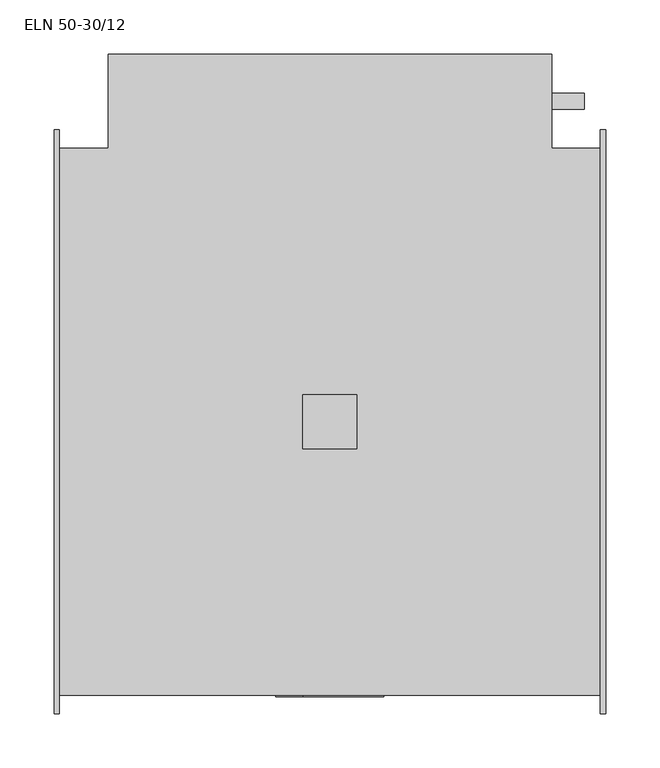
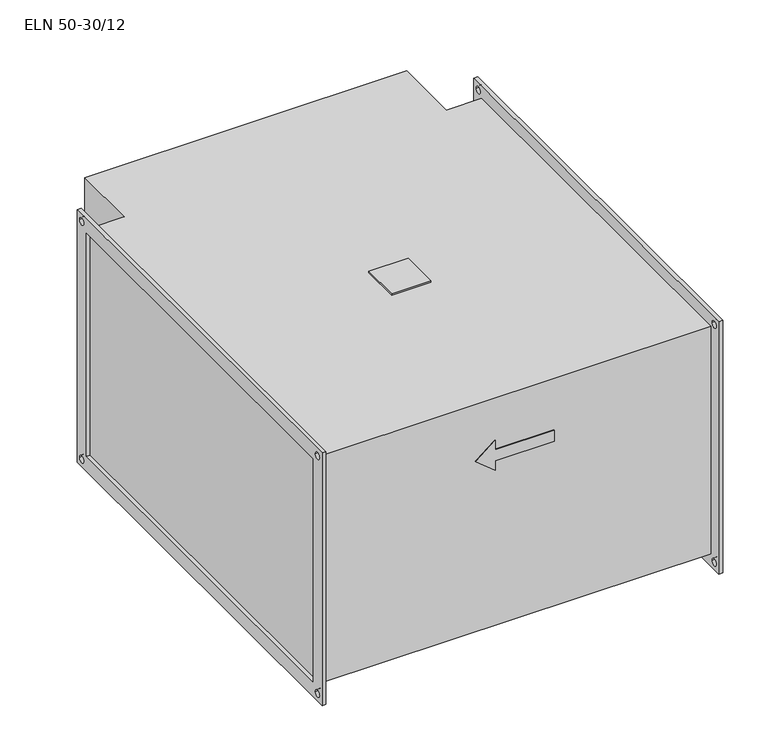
"""IFC4 building model written with IfcOpenShell, lengths in millimetres: proxy geometry, KORF_Нагреватель_Электрический_ELN : ELN 50-30/12."""

import ifcopenshell
import ifcopenshell.guid

model = None  # the IFC model being written
_history = None  # IfcOwnerHistory: only IFC2X3 demands one
_inside = {}  # id of a spatial element -> (the spatial element, [elements in it])
_under = {}  # id of a project, library or spatial element -> (it, [spatial elements below it])
_declared = {}  # id of a project -> (the project, [libraries it declares])
_typed = {}  # id of a type object -> (the type object, [elements of that type])
_made_of = {}  # id of a material, layer set ... -> (it, [elements and type objects made of it])


def new_model(schema):
    """Start an empty IFC model of exactly this schema.

    Asked for "IFC4X3", IfcOpenShell would pick the latest addendum, in which some entities
    have other attributes; the version numbers below select the first issue.
    IFC2X3 requires an IfcOwnerHistory on every rooted entity: one is made here for all.
    """
    global model, _history
    if schema == "IFC4X3":
        model = ifcopenshell.file(schema_version=(4, 3, 0, 0))
    else:
        model = ifcopenshell.file(schema=schema)
    _inside.clear()
    _under.clear()
    _declared.clear()
    _typed.clear()
    _made_of.clear()
    _history = None
    if model.schema == "IFC2X3":
        org = make("IfcOrganization", Name="unknown")
        user = make(
            "IfcPersonAndOrganization",
            ThePerson=make("IfcPerson", FamilyName="unknown"),
            TheOrganization=org,
        )
        app = make(
            "IfcApplication",
            ApplicationDeveloper=org,
            Version="unknown",
            ApplicationFullName="unknown",
            ApplicationIdentifier="unknown",
        )
        _history = make(
            "IfcOwnerHistory",
            OwningUser=user,
            OwningApplication=app,
            ChangeAction="ADDED",
            CreationDate=0,
        )
    return model


def make(cls, **values):
    """One entity of the class cls with the attributes given. An attribute that is None is left unset."""
    return model.create_entity(
        cls, **{name: value for name, value in values.items() if value is not None}
    )


def rooted(cls, **values):
    """An entity with a GlobalId (a new one), such as an element, a storey or a relation."""
    return make(cls, GlobalId=ifcopenshell.guid.new(), OwnerHistory=_history, **values)


def si_unit(unit_type, name, prefix=None):
    """IfcSIUnit, for example si_unit("LENGTHUNIT", "METRE", prefix="MILLI")."""
    return make("IfcSIUnit", UnitType=unit_type, Prefix=prefix, Name=name)


def assignment(units):
    """IfcUnitAssignment: the units of a project."""
    return None if units is None else make("IfcUnitAssignment", Units=units)


def point(xyz):
    """IfcCartesianPoint."""
    return None if xyz is None else make("IfcCartesianPoint", Coordinates=xyz)


def direction(xyz):
    """IfcDirection."""
    return None if xyz is None else make("IfcDirection", DirectionRatios=xyz)


def frame(location, z_axis=None, x_axis=None):
    """IfcAxis2Placement3D, a coordinate frame: its origin and axes. An axis left out is left unset."""
    return make(
        "IfcAxis2Placement3D",
        Location=point(location),
        Axis=direction(z_axis),
        RefDirection=direction(x_axis),
    )


def frame_2d(location, x_axis=None):
    """IfcAxis2Placement2D, a coordinate frame in the plane: its origin and x axis."""
    return make(
        "IfcAxis2Placement2D", Location=point(location), RefDirection=direction(x_axis)
    )


def origin():
    """The frame at (0, 0, 0) with its axes left unset."""
    return frame((0.0, 0.0, 0.0))


def place(relative_to, where):
    """IfcLocalPlacement: puts the frame where relative to a parent placement (None: the world)."""
    return make(
        "IfcLocalPlacement", PlacementRelTo=relative_to, RelativePlacement=where
    )


def context(
    kind, dimensions, precision=None, world=None, true_north=None, identifier=None
):
    """IfcGeometricRepresentationContext, for example the 3D "Model" context."""
    return make(
        "IfcGeometricRepresentationContext",
        ContextIdentifier=identifier,
        ContextType=kind,
        CoordinateSpaceDimension=dimensions,
        Precision=precision,
        WorldCoordinateSystem=world,
        TrueNorth=true_north,
    )


def project(units=None, contexts=None):
    """IfcProject with its units and contexts."""
    return rooted(
        "IfcProject",
        Name="project",
        RepresentationContexts=contexts,
        UnitsInContext=assignment(units),
    )


def spatial(cls, under=None, at=None, **own):
    """A site, building, storey or space (cls), placed at a placement, below another one or the project."""
    s = rooted(cls, ObjectPlacement=at, **own)
    if under is not None:
        _under.setdefault(under.id(), (under, []))[1].append(s)
    return s


def polyline(points):
    """IfcPolyline through the points."""
    return make("IfcPolyline", Points=[point(p) for p in points])


def circle_curve(where, radius):
    """IfcCircle in the frame where."""
    return make("IfcCircle", Position=where, Radius=radius)


def trimmed(basis, trim1, trim2, sense, master):
    """IfcTrimmedCurve: the piece of a basis curve between two trims."""
    return make(
        "IfcTrimmedCurve",
        BasisCurve=basis,
        Trim1=trim1,
        Trim2=trim2,
        SenseAgreement=sense,
        MasterRepresentation=master,
    )


def segment(curve, same_sense, transition):
    """IfcCompositeCurveSegment."""
    return make(
        "IfcCompositeCurveSegment",
        Transition=transition,
        SameSense=same_sense,
        ParentCurve=curve,
    )


def composite_curve(segments, self_intersect=None):
    """IfcCompositeCurve: segments joined end to end."""
    return make("IfcCompositeCurve", Segments=segments, SelfIntersect=self_intersect)


def outline(outer, holes=None, kind="AREA"):
    """IfcArbitraryClosedProfileDef: a profile drawn as a closed curve; with holes, ...WithVoids."""
    if holes is None:
        return make("IfcArbitraryClosedProfileDef", ProfileType=kind, OuterCurve=outer)
    return make(
        "IfcArbitraryProfileDefWithVoids",
        ProfileType=kind,
        OuterCurve=outer,
        InnerCurves=holes,
    )


def extrude(swept, where, along, depth):
    """IfcExtrudedAreaSolid: the profile swept, set in the frame where, extruded along a direction by depth."""
    return make(
        "IfcExtrudedAreaSolid",
        SweptArea=swept,
        Position=where,
        ExtrudedDirection=direction(along),
        Depth=depth,
    )


def shape(context_of_items, identifier, shape_type, items):
    """IfcShapeRepresentation: the items that make up one representation, for example the "Body"."""
    return make(
        "IfcShapeRepresentation",
        ContextOfItems=context_of_items,
        RepresentationIdentifier=identifier,
        RepresentationType=shape_type,
        Items=items,
    )


def source(mapping_origin, context_of_items, identifier, shape_type, items):
    """IfcRepresentationMap: a shape defined once, which mapped items show again and again."""
    return make(
        "IfcRepresentationMap",
        MappingOrigin=mapping_origin,
        MappedRepresentation=shape(context_of_items, identifier, shape_type, items),
    )


def transform(
    local_origin,
    x_axis=None,
    y_axis=None,
    z_axis=None,
    scale=None,
    scale2=None,
    scale3=None,
    uniform=True,
):
    """IfcCartesianTransformationOperator3D, or its non-uniform kind. x_axis, y_axis, z_axis: its Axis1, 2, 3."""
    if uniform:
        return make(
            "IfcCartesianTransformationOperator3D",
            Axis1=direction(x_axis),
            Axis2=direction(y_axis),
            LocalOrigin=point(local_origin),
            Scale=scale,
            Axis3=direction(z_axis),
        )
    return make(
        "IfcCartesianTransformationOperator3DnonUniform",
        Axis1=direction(x_axis),
        Axis2=direction(y_axis),
        LocalOrigin=point(local_origin),
        Scale=scale,
        Axis3=direction(z_axis),
        Scale2=scale2,
        Scale3=scale3,
    )


def mapped(mapping_source, mapping_target):
    """IfcMappedItem: shows the shape of a source again, moved by a transform."""
    return make(
        "IfcMappedItem", MappingSource=mapping_source, MappingTarget=mapping_target
    )


def made_of(thing, what):
    """Note that an element or type object is made of a material, layer set ...; save() writes the relation."""
    if what is not None:
        _made_of.setdefault(what.id(), (what, []))[1].append(thing)
    return thing


def element(
    cls,
    number,
    at=None,
    inside=None,
    cuts=None,
    type_object=None,
    material=None,
    context=None,
    identifier="Body",
    shape_type=None,
    held_by="IfcProductDefinitionShape",
    body=None,
    shapes=None,
    **own,
):
    """One element of the class cls, such as IfcWall. Its Tag is "e" and its number.

    at: its placement. inside: the storey or other place that contains it. cuts: it is an
    opening in that element (IfcRelVoidsElement). A single representation is given by context,
    identifier, shape_type and body (its items); several are given by shapes. held_by: the class
    of the entity that holds the representations. save() writes the other relations.
    """
    e = rooted(cls, Tag="e%d" % number, ObjectPlacement=at, **own)
    if body is not None:
        shapes = [shape(context, identifier, shape_type, body)]
    if shapes is not None:
        e.Representation = make(held_by, Representations=shapes)
    if inside is not None:
        _inside.setdefault(inside.id(), (inside, []))[1].append(e)
    if cuts is not None:
        rooted(
            "IfcRelVoidsElement", RelatingBuildingElement=cuts, RelatedOpeningElement=e
        )
    if type_object is not None:
        _typed.setdefault(type_object.id(), (type_object, []))[1].append(e)
    return made_of(e, material)


def aggregate(whole, parts):
    """IfcRelAggregates: a whole, such as a stair, and the parts it consists of."""
    return rooted("IfcRelAggregates", RelatingObject=whole, RelatedObjects=parts)


def save(model, path):
    """Write the relations noted so far, then the file.

    IfcRelAggregates (storeys below a building ...), IfcRelContainedInSpatialStructure (elements
    in a storey), IfcRelDefinesByType, IfcRelAssociatesMaterial and IfcRelDeclares: one each for
    every whole, place, type object, material and project.
    """
    for whole, parts in _under.values():
        aggregate(whole, parts)
    for where, things in _inside.values():
        rooted(
            "IfcRelContainedInSpatialStructure",
            RelatedElements=things,
            RelatingStructure=where,
        )
    for kind, things in _typed.values():
        rooted("IfcRelDefinesByType", RelatedObjects=things, RelatingType=kind)
    for what, things in _made_of.values():
        rooted("IfcRelAssociatesMaterial", RelatedObjects=things, RelatingMaterial=what)
    for by, libraries in _declared.values():
        rooted("IfcRelDeclares", RelatingContext=by, RelatedDefinitions=libraries)
    model.write(path)


def eln_50_30_12_ada01c48(model_context):
    return source(origin(), model_context, "Body", "SweptSolid", [
        extrude(outline(polyline([(230.0, -25.0), (230.0, 25.0), (280.0, 25.0), (280.0, -25.0), (230.0, -25.0)])), frame((0.0, 0.0, 153.0), z_axis=(0.0, 0.0, 1.0), x_axis=(1.0, 0.0, 0.0)), (0.0, 0.0, 1.0), 2.0),
        extrude(outline(composite_curve([segment(trimmed(circle_curve(frame_2d((296.5, -76.5)), 7.5), [point((289.0, -76.5))], [point((304.0, -76.5))], False, "CARTESIAN"), True, "CONTINUOUS"), segment(trimmed(circle_curve(frame_2d((296.5, -76.5)), 7.5), [point((304.0, -76.5))], [point((289.0, -76.5))], False, "CARTESIAN"), True, "CONTINUOUS")], self_intersect=False)), frame((460.0, 0.0, 0.0), z_axis=(1.0, 0.0, 0.0), x_axis=(0.0, 1.0, 0.0)), (0.0, 0.0, 1.0), 30.0),
        extrude(outline(composite_curve([segment(trimmed(circle_curve(frame_2d((296.5, -56.5)), 7.5), [point((289.0, -56.5))], [point((304.0, -56.5))], False, "CARTESIAN"), True, "CONTINUOUS"), segment(trimmed(circle_curve(frame_2d((296.5, -56.5)), 7.5), [point((304.0, -56.5))], [point((289.0, -56.5))], False, "CARTESIAN"), True, "CONTINUOUS")], self_intersect=False)), frame((460.0, 0.0, 0.0), z_axis=(1.0, 0.0, 0.0), x_axis=(0.0, 1.0, 0.0)), (0.0, 0.0, 1.0), 30.0),
        extrude(outline(composite_curve([segment(trimmed(circle_curve(frame_2d((296.5, -96.5)), 7.5), [point((289.0, -96.5))], [point((304.0, -96.5))], False, "CARTESIAN"), True, "CONTINUOUS"), segment(trimmed(circle_curve(frame_2d((296.5, -96.5)), 7.5), [point((304.0, -96.5))], [point((289.0, -96.5))], False, "CARTESIAN"), True, "CONTINUOUS")], self_intersect=False)), frame((460.0, 0.0, 0.0), z_axis=(1.0, 0.0, 0.0), x_axis=(0.0, 1.0, 0.0)), (0.0, 0.0, 1.0), 30.0),
        extrude(outline(polyline([(96.5, 230.0), (76.5, 205.0), (56.5, 230.0), (69.0, 230.0), (69.0, 305.0), (84.0, 305.0), (84.0, 230.0), (96.5, 230.0)])), frame((0.0, -254.0, 0.0), z_axis=(0.0, 1.0, 0.0), x_axis=(0.0, 0.0, 1.0)), (0.0, 0.0, 1.0), 1.0),
        extrude(outline(polyline([(505.0, 253.0), (505.0, -253.0), (5.0, -253.0), (5.0, 253.0), (50.0, 253.0), (50.0, 340.0), (460.0, 340.0), (460.0, 253.0), (505.0, 253.0)])), frame((0.0, 0.0, -153.0), z_axis=(0.0, 0.0, 1.0), x_axis=(1.0, 0.0, 0.0)), (0.0, 0.0, 1.0), 306.0),
        extrude(outline(polyline([(-270.0, 170.0), (270.0, 170.0), (270.0, -170.0), (-270.0, -170.0), (-270.0, 170.0)]), holes=[polyline([(-250.0, 150.0), (-250.0, -150.0), (250.0, -150.0), (250.0, 150.0), (-250.0, 150.0)]), composite_curve([segment(trimmed(circle_curve(frame_2d((260.0, 160.0)), 4.5), [point((255.5, 160.0))], [point((264.5, 160.0))], True, "CARTESIAN"), True, "CONTINUOUS"), segment(trimmed(circle_curve(frame_2d((260.0, 160.0)), 4.5), [point((264.5, 160.0))], [point((255.5, 160.0))], True, "CARTESIAN"), True, "CONTINUOUS")], self_intersect=False), composite_curve([segment(trimmed(circle_curve(frame_2d((-260.0, 160.0)), 4.5), [point((-264.5, 160.0))], [point((-255.5, 160.0))], True, "CARTESIAN"), True, "CONTINUOUS"), segment(trimmed(circle_curve(frame_2d((-260.0, 160.0)), 4.5), [point((-255.5, 160.0))], [point((-264.5, 160.0))], True, "CARTESIAN"), True, "CONTINUOUS")], self_intersect=False), composite_curve([segment(trimmed(circle_curve(frame_2d((-260.0, -160.0)), 4.5), [point((-264.5, -160.0))], [point((-255.5, -160.0))], True, "CARTESIAN"), True, "CONTINUOUS"), segment(trimmed(circle_curve(frame_2d((-260.0, -160.0)), 4.5), [point((-255.5, -160.0))], [point((-264.5, -160.0))], True, "CARTESIAN"), True, "CONTINUOUS")], self_intersect=False), composite_curve([segment(trimmed(circle_curve(frame_2d((260.0, -160.0)), 4.5), [point((255.5, -160.0))], [point((264.5, -160.0))], True, "CARTESIAN"), True, "CONTINUOUS"), segment(trimmed(circle_curve(frame_2d((260.0, -160.0)), 4.5), [point((264.5, -160.0))], [point((255.5, -160.0))], True, "CARTESIAN"), True, "CONTINUOUS")], self_intersect=False)]), frame((505.0, 0.0, 0.0), z_axis=(1.0, 0.0, 0.0), x_axis=(0.0, 1.0, 0.0)), (0.0, 0.0, 1.0), 5.0),
        extrude(outline(polyline([(-270.0, 170.0), (270.0, 170.0), (270.0, -170.0), (-270.0, -170.0), (-270.0, 170.0)]), holes=[polyline([(-250.0, 150.0), (-250.0, -150.0), (250.0, -150.0), (250.0, 150.0), (-250.0, 150.0)]), composite_curve([segment(trimmed(circle_curve(frame_2d((260.0, 160.0)), 4.5), [point((255.5, 160.0))], [point((264.5, 160.0))], True, "CARTESIAN"), True, "CONTINUOUS"), segment(trimmed(circle_curve(frame_2d((260.0, 160.0)), 4.5), [point((264.5, 160.0))], [point((255.5, 160.0))], True, "CARTESIAN"), True, "CONTINUOUS")], self_intersect=False), composite_curve([segment(trimmed(circle_curve(frame_2d((-260.0, 160.0)), 4.5), [point((-264.5, 160.0))], [point((-255.5, 160.0))], True, "CARTESIAN"), True, "CONTINUOUS"), segment(trimmed(circle_curve(frame_2d((-260.0, 160.0)), 4.5), [point((-255.5, 160.0))], [point((-264.5, 160.0))], True, "CARTESIAN"), True, "CONTINUOUS")], self_intersect=False), composite_curve([segment(trimmed(circle_curve(frame_2d((-260.0, -160.0)), 4.5), [point((-264.5, -160.0))], [point((-255.5, -160.0))], True, "CARTESIAN"), True, "CONTINUOUS"), segment(trimmed(circle_curve(frame_2d((-260.0, -160.0)), 4.5), [point((-255.5, -160.0))], [point((-264.5, -160.0))], True, "CARTESIAN"), True, "CONTINUOUS")], self_intersect=False), composite_curve([segment(trimmed(circle_curve(frame_2d((260.0, -160.0)), 4.5), [point((255.5, -160.0))], [point((264.5, -160.0))], True, "CARTESIAN"), True, "CONTINUOUS"), segment(trimmed(circle_curve(frame_2d((260.0, -160.0)), 4.5), [point((264.5, -160.0))], [point((255.5, -160.0))], True, "CARTESIAN"), True, "CONTINUOUS")], self_intersect=False)]), frame((0.0, 0.0, 0.0), z_axis=(1.0, 0.0, 0.0), x_axis=(0.0, 1.0, 0.0)), (0.0, 0.0, 1.0), 5.0),
    ])


if __name__ == "__main__":
    model = new_model("IFC4")
    model_context = context("Model", 3, world=origin())
    ifc_project = project(units=[si_unit("LENGTHUNIT", "METRE", prefix="MILLI")], contexts=[model_context])
    site = spatial("IfcSite", under=ifc_project)
    building = spatial("IfcBuilding", under=site)
    placement = place(None, origin())
    eln_50_30_12_shape = eln_50_30_12_ada01c48(model_context)
    element("IfcBuildingElementProxy", 1, Name="KORF_Нагреватель_Электрический_ELN : ELN 50-30/12", ObjectType="KORF_Нагреватель_Электрический_ELN : ELN 50-30/12", at=placement, inside=building, context=model_context, shape_type="MappedRepresentation", body=[
        mapped(eln_50_30_12_shape, transform((0.0, 0.0, 0.0), x_axis=(1.0, 0.0, 0.0), y_axis=(0.0, 1.0, 0.0), z_axis=(0.0, 0.0, 1.0))),
    ])
    save(model, "model.ifc")
